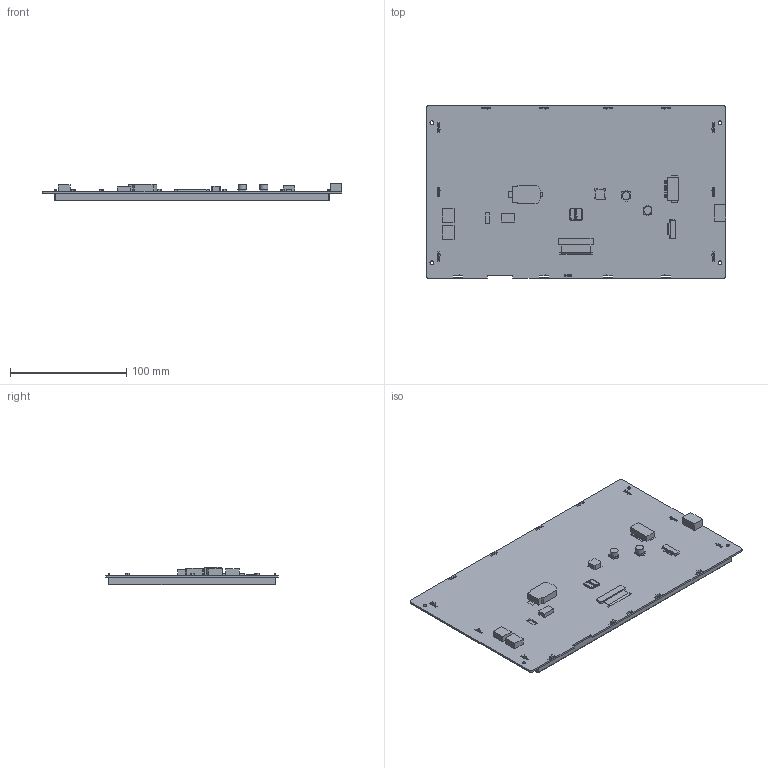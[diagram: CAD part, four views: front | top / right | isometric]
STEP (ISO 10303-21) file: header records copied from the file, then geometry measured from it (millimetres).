
FILE_DESCRIPTION(/* description */ (''),/* implementation_level */ '2;1');
FILE_NAME(/* name */ '',/* time_stamp */ '2023-07-26T18:18:52+08:00',/* author */ (''),/* organization */ (''),/* preprocessor_version */ 'ST-DEVELOPER v11',/* originating_system */ 'SIEMENS PLM Software NX 7.5',/* authorisation */ '');
FILE_SCHEMA (('AP203_CONFIGURATION_CONTROLLED_3D_DESIGN_OF_MECHANICAL_PARTS_AND_ASSEMBLIES_MIM_LF'));
Length unit declared in the file: millimetre
Products named in the file (1): 3D-SDWb101U74N_stp
Bounding box: 257.8 x 148.1 x 15.1 mm (x, y, z)
Volume: 74448.5 mm3; surface area: 163186.6 mm2
Topology: 20 solids, 20 shells, 1604 faces, 4584 edges, 3033 vertices
Faces by surface type: plane 1376, cylinder 221, bspline 7
Full cylindrical faces by diameter (mm): 3.2 x4, 6.776 x2
Entity records: 53803 total; most frequent: CARTESIAN_POINT 9641, ORIENTED_EDGE 9152, DIRECTION 8127, EDGE_CURVE 4576, LINE 4097, VECTOR 4097, VERTEX_POINT 3031, AXIS2_PLACEMENT_3D 2015
